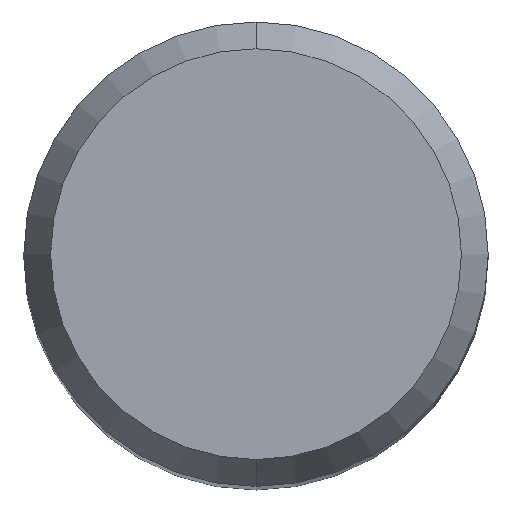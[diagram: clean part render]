
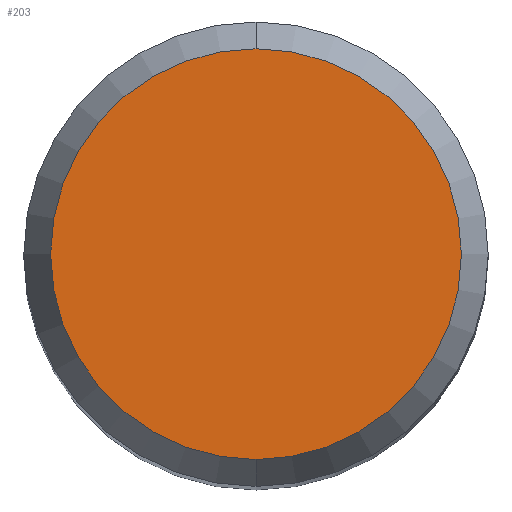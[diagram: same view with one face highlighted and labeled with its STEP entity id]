
A CAD part, top view. The second image highlights one B-rep face of the part: STEP entity #203.
In plain terms, the highlighted planar face has unit normal (0, 0, 1).
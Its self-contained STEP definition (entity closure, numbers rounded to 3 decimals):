
#203=ADVANCED_FACE('',(#496),#497,.T.);
#219=EDGE_CURVE('',#287,#281,#513,.T.);
#231=EDGE_CURVE('',#281,#287,#526,.T.);
#281=VERTEX_POINT('',#579);
#287=VERTEX_POINT('',#585);
#496=FACE_OUTER_BOUND('',#831,.T.);
#497=PLANE('',#832);
#513=CIRCLE('',#893,3.538);
#526=CIRCLE('',#930,3.538);
#579=CARTESIAN_POINT('',(0.,-3.538,0.0));
#585=CARTESIAN_POINT('',(0.0,3.538,0.0));
#831=EDGE_LOOP('',(#1428,#1429));
#832=AXIS2_PLACEMENT_3D('',#1430,#1431,#1432);
#893=AXIS2_PLACEMENT_3D('',#1437,#1438,#1439);
#930=AXIS2_PLACEMENT_3D('',#1452,#1453,#1454);
#1428=ORIENTED_EDGE('',*,*,#219,.F.);
#1429=ORIENTED_EDGE('',*,*,#231,.F.);
#1430=CARTESIAN_POINT('',(0.0,1.769,0.0));
#1431=DIRECTION('',(-0.0,0.0,1.0));
#1432=DIRECTION('',(0.0,-1.0,0.0));
#1437=CARTESIAN_POINT('',(0.0,0.0,0.0));
#1438=DIRECTION('',(0.0,0.0,-1.0));
#1439=DIRECTION('',(0.0,1.0,0.0));
#1452=CARTESIAN_POINT('',(0.0,0.0,0.0));
#1453=DIRECTION('',(0.0,0.0,-1.0));
#1454=DIRECTION('',(0.0,1.0,0.0));
